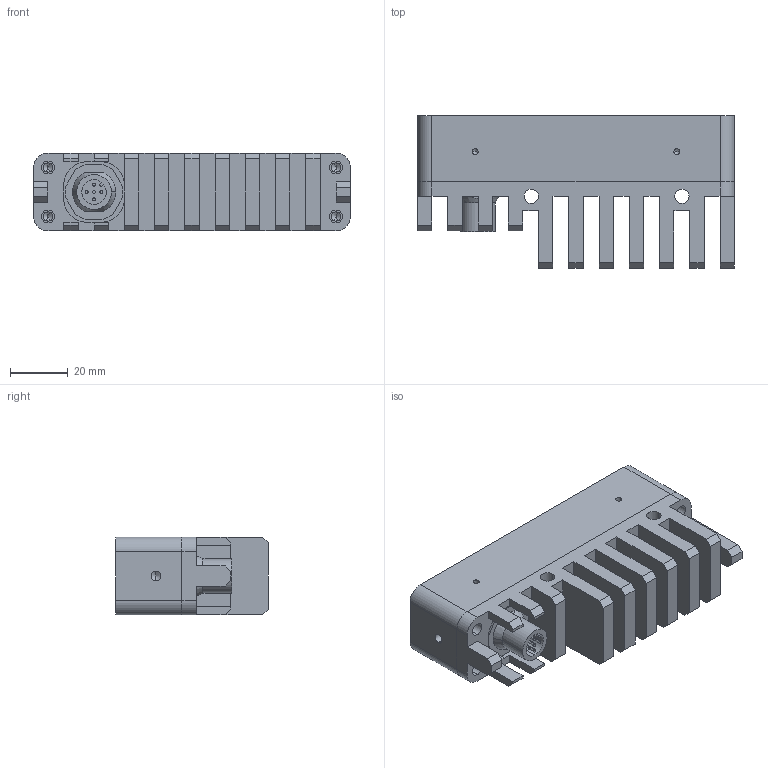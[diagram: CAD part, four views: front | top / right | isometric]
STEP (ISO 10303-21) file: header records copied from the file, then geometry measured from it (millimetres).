
FILE_DESCRIPTION (( 'STEP AP214' ), '1' );
FILE_NAME ('03558.00 Basisbaugruppe MBL-0210 + 03563.00 Kühlkörper f. MBL-0210.STEP', '2023-03-27T06:25:16', ( '' ), ( '' ), 'SwSTEP 2.0', 'SolidWorks 2022', '' );
FILE_SCHEMA (( 'AUTOMOTIVE_DESIGN' ));
Length unit declared in the file: millimetre
Products named in the file (6): 03559.00 Gehäuse MBL-0210; 03563.00 Kühlkörper f. MBL-0210; 03561.00 Steckerblech MBL-02xx (M12 Stecker); 03560.00 Deckscheibe MBL-0210 (klar, mit Blende); 00436.00 Einbaustecker M12x1 5pol; 03558.00 Basisbaugruppe MBL-0210 + 03563.00 Kühlkörper f. MBL-0210
Assembly tree (5 placements, depth 2):
  03558.00 Basisbaugruppe MBL-0210 + 03563.00 Kühlkörper f. MBL-0210
    03559.00 Gehäuse MBL-0210
    03560.00 Deckscheibe MBL-0210 (klar, mit Blende)
    03561.00 Steckerblech MBL-02xx (M12 Stecker)
    00436.00 Einbaustecker M12x1 5pol
    03563.00 Kühlkörper f. MBL-0210
Bounding box: 110 x 53 x 27 mm (x, y, z)
Volume: 75984.8 mm3; surface area: 51848.3 mm2
Topology: 6 solids, 6 shells, 400 faces, 1088 edges, 702 vertices
Faces by surface type: plane 236, cylinder 138, cone 22, sphere 4
Entity records: 13275 total; most frequent: CARTESIAN_POINT 2216, DIRECTION 2162, ORIENTED_EDGE 2132, EDGE_CURVE 1066, LINE 778, VECTOR 778, VERTEX_POINT 702, AXIS2_PLACEMENT_3D 692
